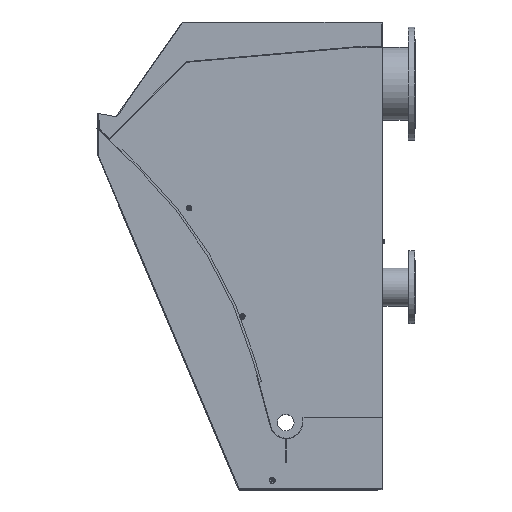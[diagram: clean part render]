
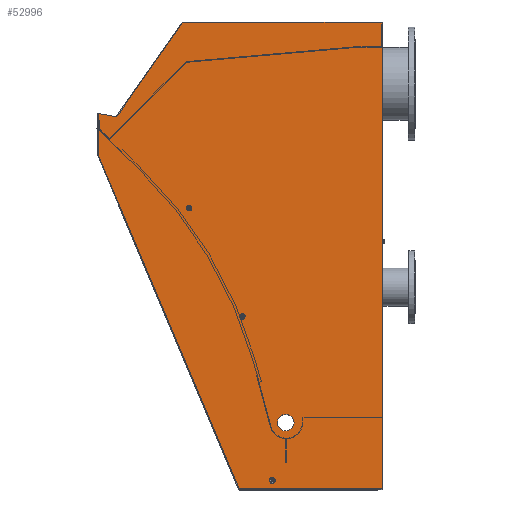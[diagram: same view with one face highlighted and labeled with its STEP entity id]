
A CAD part, top view. The second image highlights one B-rep face of the part: STEP entity #52996.
In plain terms, the highlighted planar face has unit normal (0, 0, 1).
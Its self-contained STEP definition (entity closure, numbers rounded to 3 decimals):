
#6885=LINE('',#92408,#11635);
#6887=LINE('',#92412,#11637);
#6894=LINE('',#92437,#11644);
#6902=LINE('',#92453,#11652);
#6914=LINE('',#92478,#11664);
#6927=LINE('',#92500,#11677);
#6938=LINE('',#92523,#11688);
#6939=LINE('',#92525,#11689);
#11635=VECTOR('',#64873,0.2);
#11637=VECTOR('',#64877,60.);
#11644=VECTOR('',#64902,43.);
#11652=VECTOR('',#64914,34.539);
#11664=VECTOR('',#64932,12.5);
#11677=VECTOR('',#64957,108.855);
#11688=VECTOR('',#64988,5.59);
#11689=VECTOR('',#64991,140.3);
#12845=FACE_BOUND('',#18991,.T.);
#12846=FACE_BOUND('',#18992,.T.);
#12847=FACE_BOUND('',#18993,.T.);
#12848=FACE_BOUND('',#18994,.T.);
#15667=FACE_OUTER_BOUND('',#18990,.T.);
#18990=EDGE_LOOP('',(#45085,#45086,#45087,#45088,#45089,#45090,#45091,#45092));
#18991=EDGE_LOOP('',(#45093));
#18992=EDGE_LOOP('',(#45094));
#18993=EDGE_LOOP('',(#45095));
#18994=EDGE_LOOP('',(#45096));
#19666=CIRCLE('',#55418,0.9);
#19699=CIRCLE('',#55495,2.5);
#19700=CIRCLE('',#55521,0.8);
#19701=CIRCLE('',#55522,0.8);
#24212=VERTEX_POINT('',#92033);
#24348=VERTEX_POINT('',#92405);
#24349=VERTEX_POINT('',#92407);
#24350=VERTEX_POINT('',#92411);
#24353=VERTEX_POINT('',#92421);
#24358=VERTEX_POINT('',#92434);
#24359=VERTEX_POINT('',#92436);
#24365=VERTEX_POINT('',#92451);
#24374=VERTEX_POINT('',#92475);
#24375=VERTEX_POINT('',#92477);
#24381=VERTEX_POINT('',#92526);
#24382=VERTEX_POINT('',#92528);
#31121=EDGE_CURVE('',#24212,#24212,#19666,.T.);
#31294=EDGE_CURVE('',#24348,#24349,#6885,.T.);
#31296=EDGE_CURVE('',#24349,#24350,#6887,.T.);
#31300=EDGE_CURVE('',#24353,#24353,#19699,.T.);
#31306=EDGE_CURVE('',#24358,#24359,#6894,.T.);
#31314=EDGE_CURVE('',#24365,#24348,#6902,.T.);
#31326=EDGE_CURVE('',#24374,#24375,#6914,.T.);
#31339=EDGE_CURVE('',#24359,#24374,#6927,.T.);
#31350=EDGE_CURVE('',#24375,#24365,#6938,.T.);
#31351=EDGE_CURVE('',#24350,#24358,#6939,.T.);
#31352=EDGE_CURVE('',#24381,#24381,#19700,.T.);
#31353=EDGE_CURVE('',#24382,#24382,#19701,.T.);
#45085=ORIENTED_EDGE('',*,*,#31351,.F.);
#45086=ORIENTED_EDGE('',*,*,#31296,.F.);
#45087=ORIENTED_EDGE('',*,*,#31294,.F.);
#45088=ORIENTED_EDGE('',*,*,#31314,.F.);
#45089=ORIENTED_EDGE('',*,*,#31350,.F.);
#45090=ORIENTED_EDGE('',*,*,#31326,.F.);
#45091=ORIENTED_EDGE('',*,*,#31339,.F.);
#45092=ORIENTED_EDGE('',*,*,#31306,.F.);
#45093=ORIENTED_EDGE('',*,*,#31352,.T.);
#45094=ORIENTED_EDGE('',*,*,#31353,.T.);
#45095=ORIENTED_EDGE('',*,*,#31121,.T.);
#45096=ORIENTED_EDGE('',*,*,#31300,.F.);
#47480=PLANE('',#55520);
#52996=ADVANCED_FACE('',(#15667,#12845,#12846,#12847,#12848),#47480,.T.);
#55418=AXIS2_PLACEMENT_3D('',#92034,#64601,#64602);
#55495=AXIS2_PLACEMENT_3D('',#92422,#64889,#64890);
#55520=AXIS2_PLACEMENT_3D('',#92524,#64989,#64990);
#55521=AXIS2_PLACEMENT_3D('',#92527,#64992,#64993);
#55522=AXIS2_PLACEMENT_3D('',#92529,#64994,#64995);
#64601=DIRECTION('center_axis',(0.,0.,
-1.));
#64602=DIRECTION('ref_axis',(1.,0.,0.));
#64873=DIRECTION('',(0.,1.,0.));
#64877=DIRECTION('',(1.,0.,0.));
#64889=DIRECTION('center_axis',(0.,0.,
1.));
#64890=DIRECTION('ref_axis',(0.,1.,0.));
#64902=DIRECTION('',(-1.,0.,0.));
#64914=DIRECTION('',(0.573,0.819,0.));
#64932=DIRECTION('',(0.,1.,0.));
#64957=DIRECTION('',(-0.389,0.921,0.));
#64988=DIRECTION('',(0.984,-0.179,0.));
#64989=DIRECTION('center_axis',(0.,0.,
1.));
#64990=DIRECTION('ref_axis',(0.,1.,0.));
#64991=DIRECTION('',(0.,-1.,0.));
#64992=DIRECTION('center_axis',(0.,0.,
-1.));
#64993=DIRECTION('ref_axis',(0.605,0.796,0.));
#64994=DIRECTION('center_axis',(0.,0.,
-1.));
#64995=DIRECTION('ref_axis',(-0.727,-0.687,0.));
#92033=CARTESIAN_POINT('',(-3.156,-130.4,47.7));
#92034=CARTESIAN_POINT('Origin',(-4.056,-130.4,47.7));
#92405=CARTESIAN_POINT('',(-31.056,7.2,47.7));
#92407=CARTESIAN_POINT('',(-31.056,7.4,47.7));
#92408=CARTESIAN_POINT('',(-31.056,7.4,47.7));
#92411=CARTESIAN_POINT('',(28.944,7.4,47.7));
#92412=CARTESIAN_POINT('',(28.944,7.4,47.7));
#92421=CARTESIAN_POINT('',(-0.056,-115.5,47.7));
#92422=CARTESIAN_POINT('Origin',(-0.056,-113.,
47.7));
#92434=CARTESIAN_POINT('',(28.944,-132.9,47.7));
#92436=CARTESIAN_POINT('',(-14.056,-132.9,47.7));
#92437=CARTESIAN_POINT('',(28.944,-132.9,47.7));
#92451=CARTESIAN_POINT('',(-50.856,-21.1,47.7));
#92453=CARTESIAN_POINT('',(-50.856,-21.1,47.7));
#92475=CARTESIAN_POINT('',(-56.356,-32.6,47.7));
#92477=CARTESIAN_POINT('',(-56.356,-20.1,47.7));
#92478=CARTESIAN_POINT('',(-56.356,-32.6,47.7));
#92500=CARTESIAN_POINT('',(-14.056,-132.9,47.7));
#92523=CARTESIAN_POINT('',(-56.356,-20.1,47.7));
#92524=CARTESIAN_POINT('Origin',(-4.793,-58.777,47.7));
#92525=CARTESIAN_POINT('',(28.944,7.2,47.7));
#92526=CARTESIAN_POINT('',(-13.54,-81.737,47.7));
#92527=CARTESIAN_POINT('Origin',(-13.056,-81.1,47.7));
#92528=CARTESIAN_POINT('',(-28.474,-48.051,47.7));
#92529=CARTESIAN_POINT('Origin',(-29.056,-48.6,47.7));
